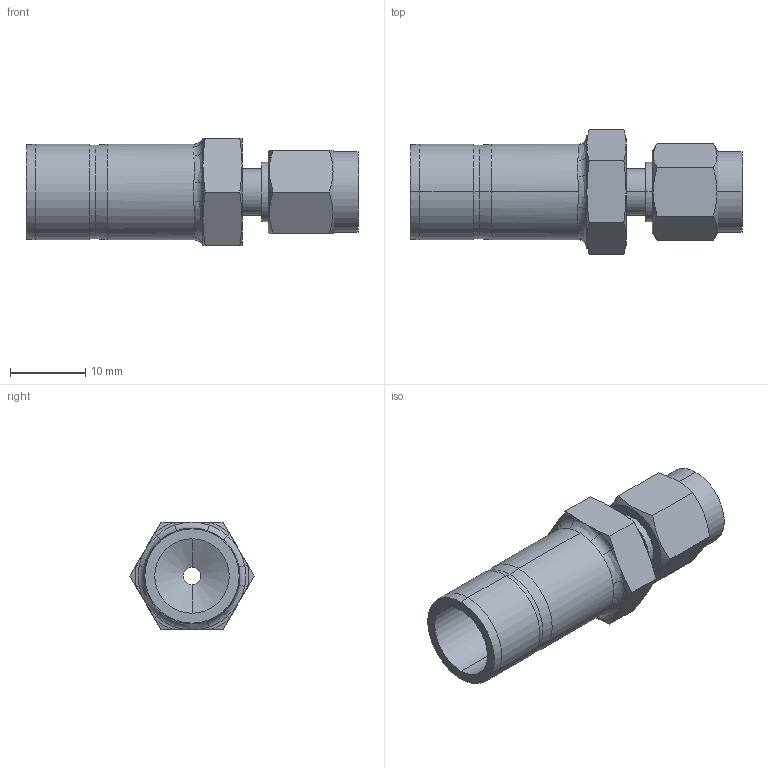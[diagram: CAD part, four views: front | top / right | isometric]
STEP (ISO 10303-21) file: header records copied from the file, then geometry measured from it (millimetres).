
FILE_DESCRIPTION (( 'STEP AP203' ), '1' );
FILE_NAME ('DRE02-08 SS.STEP', '2009-09-08T08:37:11', ( ' ' ), ( '' ), 'SwSTEP 2.0', 'SolidWorks 2008', '' );
FILE_SCHEMA (( 'CONFIG_CONTROL_DESIGN' ));
Length unit declared in the file: millimetre
Products named in the file (1): DRE02-08 SS
Bounding box: 44.1 x 16.5 x 14.29 mm (x, y, z)
Volume: 3196.8 mm3; surface area: 3108 mm2
Topology: 1 solids, 1 shells, 78 faces, 176 edges, 104 vertices
Faces by surface type: cone 24, plane 24, cylinder 18, bspline 6, torus 6
Entity records: 2573 total; most frequent: CARTESIAN_POINT 817, ORIENTED_EDGE 352, DIRECTION 348, EDGE_CURVE 176, AXIS2_PLACEMENT_3D 147, VERTEX_POINT 104, EDGE_LOOP 84, ADVANCED_FACE 78
